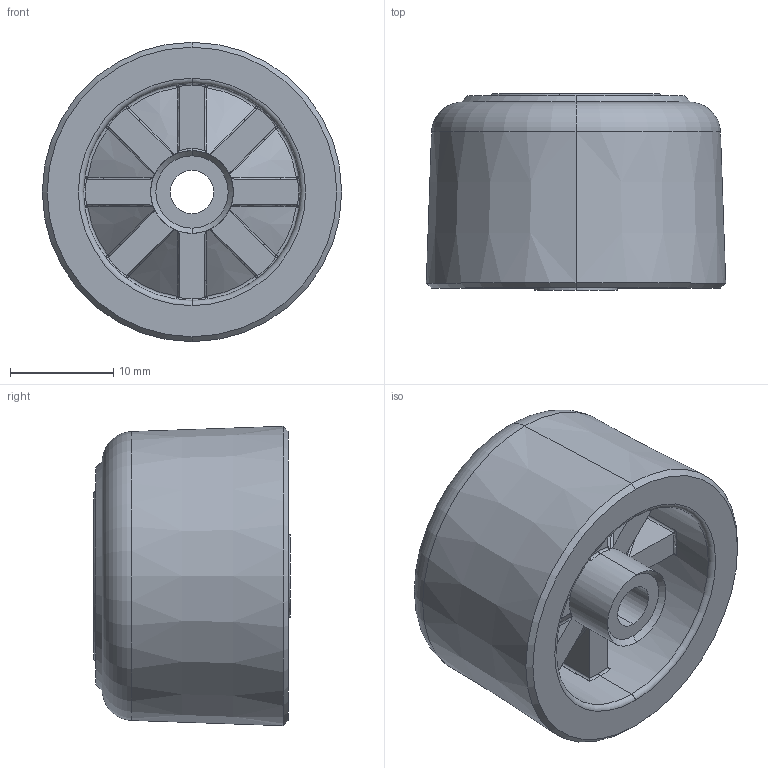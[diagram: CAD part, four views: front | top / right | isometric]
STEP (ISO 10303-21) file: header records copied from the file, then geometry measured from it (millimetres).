
FILE_DESCRIPTION(('STEP AP214'),'1');
FILE_NAME('fath_098d030zs.stp','2017-04-19T07:01:26',('TraceParts'),('TraceParts S.A.'),'Spatial InterOp 3D',' ',' ');
FILE_SCHEMA(('automotive_design'));
Length unit declared in the file: millimetre
Products named in the file (2): fath_098d030zs_1; fath_098d030zs_2
Bounding box: 28.97 x 19 x 28.97 mm (x, y, z)
Volume: 7655.1 mm3; surface area: 5107.1 mm2
Topology: 2 solids, 2 shells, 172 faces, 439 edges, 239 vertices
Faces by surface type: cylinder 38, sphere 34, torus 30, plane 30, cone 24, bspline 16
Entity records: 6860 total; most frequent: CARTESIAN_POINT 1520, DIRECTION 884, ORIENTED_EDGE 810, EDGE_CURVE 405, AXIS2_PLACEMENT_3D 399, CIRCLE 241, VERTEX_POINT 239, EDGE_LOOP 178
